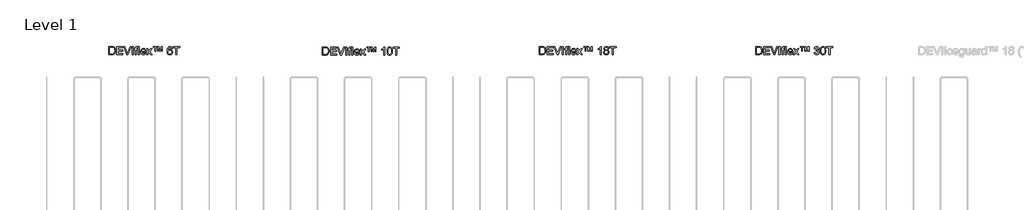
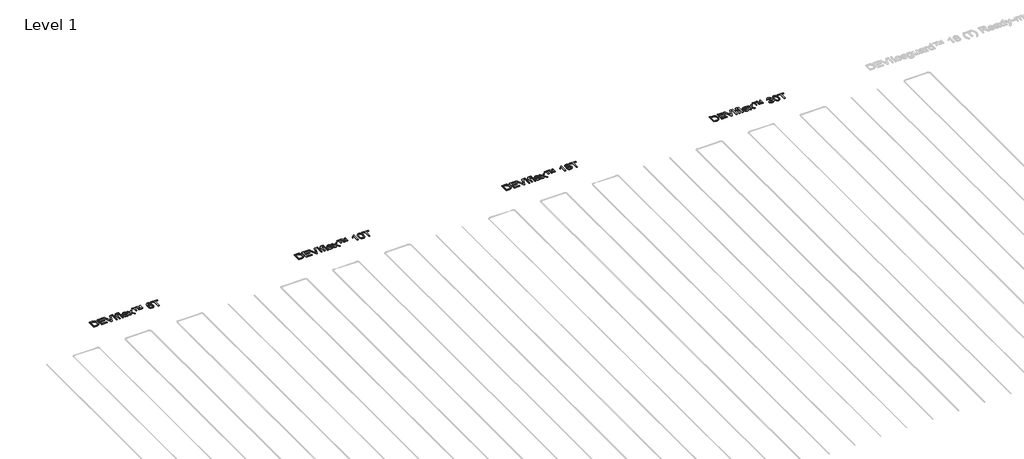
# One storey, part 23 of 26: 4 proxies.
"""IFC4 building model written with IfcOpenShell, lengths in millimetres."""

from ifc_helpers import new_model, si_unit, origin, origin_with_axes, place, context, project, spatial, polyline, outline, extrude, element, save

model = new_model("IFC4")

# Units and contexts
model_context = context("Model", 3, world=origin())
ifc_project = project(units=[si_unit("LENGTHUNIT", "METRE", prefix="MILLI")], contexts=[model_context])

# Site, building, storey
site = spatial("IfcSite", under=ifc_project)
building = spatial("IfcBuilding", under=site)
storey = spatial("IfcBuildingStorey", under=building, Name="Level 1", Elevation=0.0)

# Proxies
placement = place(None, origin())
element("IfcBuildingElementProxy", 1, Name="150mm", ObjectType="150mm", at=placement, inside=storey, context=model_context, shape_type="SweptSolid", body=[
    extrude(outline(polyline([(-10440.7797516, 2479.2798), (-10440.7797516, 2629.9642653), (-10388.7980257, 2629.9642653), (-10361.9058518, 2627.7937615), (-10339.7593557, 2617.014819), (-10329.3390982, 2605.5369008), (-10321.917079, 2591.2630794), (-10317.4749039, 2574.4692663), (-10315.9941788, 2555.431373), (-10320.0040926, 2525.0259261), (-10330.3047885, 2503.0817651), (-10344.0635751, 2489.414949), (-10362.0713987, 2481.854974), (-10386.2964281, 2479.2798), (-10440.7797516, 2479.2798)]), holes=[polyline([(-10421.9441935, 2498.1153582), (-10388.6140847, 2498.1153582), (-10364.3706612, 2500.837685), (-10350.3911454, 2508.5264187), (-10338.9316212, 2527.2332181), (-10334.829737, 2555.7256786), (-10336.8392924, 2576.253494), (-10342.8679586, 2591.4102322), (-10351.7753014, 2601.8212926), (-10362.4208866, 2608.1120748), (-10389.1291195, 2611.1287071), (-10421.9441935, 2611.1287071), (-10421.9441935, 2498.1153582)])]), origin_with_axes(), (0.0, 0.0, 1.0), 10.0),
    extrude(outline(polyline([(-10290.0952864, 2479.2798), (-10290.0952864, 2629.9642653), (-10181.790827, 2629.9642653), (-10181.790827, 2611.1287071), (-10271.2597282, 2611.1287071), (-10271.2597282, 2566.3942565), (-10186.4997165, 2566.3942565), (-10186.4997165, 2547.5586983), (-10271.2597282, 2547.5586983), (-10271.2597282, 2498.1153582), (-10179.4363822, 2498.1153582), (-10179.4363822, 2479.2798), (-10290.0952864, 2479.2798)])), origin_with_axes(), (0.0, 0.0, 1.0), 10.0),
    extrude(outline(polyline([(-10106.6693236, 2479.2798), (-10166.6340888, 2629.9642653), (-10146.4741555, 2629.9642653), (-10106.3382298, 2521.4022885), (-10098.2080377, 2496.9381358), (-10090.1882102, 2521.4022885), (-10049.9419199, 2629.9642653), (-10029.7819866, 2629.9642653), (-10087.208366, 2479.2798), (-10106.6693236, 2479.2798)])), origin_with_axes(), (0.0, 0.0, 1.0), 10.0),
    extrude(outline(polyline([(-10009.9163589, 2479.2798), (-10009.9163589, 2629.9642653), (-9991.0808007, 2629.9642653), (-9991.0808007, 2479.2798), (-10009.9163589, 2479.2798)])), origin_with_axes(), (0.0, 0.0, 1.0), 10.0),
    extrude(outline(polyline([(-9951.0552396, 2479.2798), (-9951.0552396, 2571.103146), (-9967.536353, 2571.103146), (-9967.536353, 2589.9387042), (-9951.0552396, 2589.9387042), (-9951.0552396, 2601.0855286), (-9949.0686769, 2616.7940898), (-9939.4301686, 2628.0144907), (-9920.4474576, 2632.31871), (-9903.2673685, 2630.2585709), (-9906.0264834, 2612.6002351), (-9916.8790023, 2613.4831519), (-9928.7431966, 2610.3561549), (-9932.2196815, 2598.6942957), (-9932.2196815, 2589.9387042), (-9911.0296786, 2589.9387042), (-9911.0296786, 2571.103146), (-9932.2196815, 2571.103146), (-9932.2196815, 2479.2798), (-9951.0552396, 2479.2798)])), origin_with_axes(), (0.0, 0.0, 1.0), 10.0),
    extrude(outline(polyline([(-9894.5485652, 2479.2798), (-9894.5485652, 2629.9642653), (-9875.713007, 2629.9642653), (-9875.713007, 2479.2798), (-9894.5485652, 2479.2798)])), origin_with_axes(), (0.0, 0.0, 1.0), 10.0),
    extrude(outline(polyline([(-9769.9837216, 2512.2420268), (-9751.5160454, 2509.887582), (-9758.170111, 2495.9724456), (-9768.7881051, 2485.5705822), (-9783.1309044, 2479.086662), (-9800.9593856, 2476.9253553), (-9823.0598965, 2480.654759), (-9840.0652417, 2491.8429702), (-9850.9085635, 2509.7634219), (-9854.5230041, 2533.6895471), (-9850.8717753, 2558.4204143), (-9839.9180889, 2576.9156816), (-9823.1426699, 2588.4487821), (-9802.0262434, 2592.293149), (-9781.5674059, 2588.4579792), (-9765.2196498, 2576.9524698), (-9754.5004881, 2558.4939907), (-9750.9274343, 2533.7999117), (-9751.0377988, 2528.7231402), (-9835.6874459, 2528.7231402), (-9832.4270918, 2514.6240627), (-9824.8533212, 2504.2589875), (-9813.9226274, 2497.8854319), (-9800.5915036, 2495.7609134), (-9782.1238274, 2499.6972508), (-9769.9837216, 2512.2420268)]), holes=[polyline([(-9835.6874459, 2547.5586983), (-9769.7629924, 2547.5586983), (-9772.3105752, 2557.5099063), (-9777.3045733, 2564.6284229), (-9788.2858509, 2571.2502988), (-9802.0998198, 2573.4575908), (-9814.7963471, 2571.6963558), (-9825.2947796, 2566.4126506), (-9832.5926387, 2558.1766924), (-9835.6874459, 2547.5586983)])]), origin_with_axes(), (0.0, 0.0, 1.0), 10.0),
    extrude(outline(polyline([(-9743.8640999, 2479.2798), (-9703.6178097, 2534.9035577), (-9741.5096552, 2589.9387042), (-9718.8481243, 2589.9387042), (-9700.5643891, 2563.4512005), (-9692.0295268, 2550.9432127), (-9684.6350987, 2561.1703322), (-9663.8129778, 2589.9387042), (-9641.1514469, 2589.9387042), (-9680.9562788, 2534.9035577), (-9642.6229749, 2479.2798), (-9665.2845058, 2479.2798), (-9688.3507069, 2512.7202734), (-9692.5813498, 2518.8271145), (-9721.202569, 2479.2798), (-9743.8640999, 2479.2798)])), origin_with_axes(), (0.0, 0.0, 1.0), 10.0),
    extrude(outline(polyline([(-9539.027405, 2545.2042536), (-9539.027405, 2629.9642653), (-9518.1317077, 2629.9642653), (-9496.5738228, 2561.9060962), (-9475.2734553, 2629.9642653), (-9454.2673933, 2629.9642653), (-9454.2673933, 2545.2042536), (-9468.394062, 2545.2042536), (-9468.394062, 2614.8075271), (-9489.5840649, 2545.2042536), (-9503.7107335, 2545.2042536), (-9524.9007364, 2615.8375967), (-9524.9007364, 2545.2042536), (-9539.027405, 2545.2042536)])), origin_with_axes(), (0.0, 0.0, 1.0), 10.0),
    extrude(outline(polyline([(-9590.82519, 2545.2042536), (-9590.82519, 2615.8375967), (-9619.0785272, 2615.8375967), (-9619.0785272, 2629.9642653), (-9548.4451841, 2629.9642653), (-9548.4451841, 2615.8375967), (-9576.6985213, 2615.8375967), (-9576.6985213, 2545.2042536), (-9590.82519, 2545.2042536)])), origin_with_axes(), (0.0, 0.0, 1.0), 10.0),
    extrude(outline(polyline([(-9265.9118118, 2589.9387042), (-9284.74737, 2587.5842594), (-9291.8842807, 2603.2928206), (-9300.42834, 2609.1697355), (-9310.756627, 2611.1287071), (-9327.7527752, 2606.5669704), (-9340.6102509, 2589.4420635), (-9344.5143986, 2575.4119639), (-9345.962934, 2555.8728314), (-9329.3530619, 2570.9008109), (-9308.7700642, 2575.8120356), (-9291.3692459, 2572.4551124), (-9276.7643307, 2562.3843428), (-9266.8591079, 2546.9976783), (-9263.557367, 2527.6930706), (-9265.1116685, 2514.205597), (-9269.7745728, 2501.7022076), (-9277.1598038, 2491.0980091), (-9286.8810855, 2483.3081079), (-9298.4969595, 2478.5210434), (-9311.5659674, 2476.9253553), (-9332.9353128, 2481.1559982), (-9349.9544536, 2493.8479271), (-9361.0874825, 2516.2519406), (-9364.7984921, 2549.6188375), (-9360.6782138, 2587.133604), (-9348.3173787, 2612.7841761), (-9331.4407922, 2625.669243), (-9309.5794046, 2629.9642653), (-9293.052306, 2627.3063179), (-9279.8177512, 2619.3324756), (-9270.5471249, 2606.6681379), (-9265.9118118, 2589.9387042)]), holes=[polyline([(-9345.962934, 2527.9873762), (-9341.6035323, 2511.6718097), (-9330.0152495, 2499.8260095), (-9313.0374954, 2495.7609134), (-9300.6076825, 2497.8670378), (-9290.835817, 2504.1854111), (-9284.5036481, 2514.118225), (-9282.3929252, 2527.0676712), (-9284.476057, 2539.4974841), (-9290.7254524, 2548.975044), (-9300.6628648, 2554.9761191), (-9313.8100476, 2556.9764774), (-9326.2214664, 2554.9761191), (-9336.6003372, 2548.975044), (-9343.6222848, 2539.7274104), (-9345.962934, 2527.9873762)])]), origin_with_axes(), (0.0, 0.0, 1.0), 10.0),
    extrude(outline(polyline([(-9202.341803, 2479.2798), (-9202.341803, 2611.1287071), (-9251.7851432, 2611.1287071), (-9251.7851432, 2629.9642653), (-9134.0629047, 2629.9642653), (-9134.0629047, 2611.1287071), (-9183.5062449, 2611.1287071), (-9183.5062449, 2479.2798), (-9202.341803, 2479.2798)])), origin_with_axes(), (0.0, 0.0, 1.0), 10.0),
])
element("IfcBuildingElementProxy", 2, Name="150mm", ObjectType="150mm", at=placement, inside=storey, context=model_context, shape_type="SweptSolid", body=[
    extrude(outline(polyline([(-6498.4636485, 2472.3798), (-6498.4636485, 2623.0642653), (-6446.4819225, 2623.0642653), (-6419.5897487, 2620.8937615), (-6397.4432526, 2610.114819), (-6387.0229951, 2598.6369008), (-6379.6009758, 2584.3630794), (-6375.1588007, 2567.5692663), (-6373.6780757, 2548.531373), (-6377.6879894, 2518.1259261), (-6387.9886853, 2496.1817651), (-6401.7474719, 2482.514949), (-6419.7552956, 2474.954974), (-6443.980325, 2472.3798), (-6498.4636485, 2472.3798)]), holes=[polyline([(-6479.6280903, 2491.2153582), (-6446.2979815, 2491.2153582), (-6422.0545581, 2493.937685), (-6408.0750422, 2501.6264187), (-6396.6155181, 2520.3332181), (-6392.5136338, 2548.8256786), (-6394.5231892, 2569.353494), (-6400.5518554, 2584.5102322), (-6409.4591982, 2594.9212926), (-6420.1047835, 2601.2120748), (-6446.8130163, 2604.2287071), (-6479.6280903, 2604.2287071), (-6479.6280903, 2491.2153582)])]), origin_with_axes(), (0.0, 0.0, 1.0), 10.0),
    extrude(outline(polyline([(-6347.7791832, 2472.3798), (-6347.7791832, 2623.0642653), (-6239.4747238, 2623.0642653), (-6239.4747238, 2604.2287071), (-6328.9436251, 2604.2287071), (-6328.9436251, 2559.4942565), (-6244.1836134, 2559.4942565), (-6244.1836134, 2540.6586983), (-6328.9436251, 2540.6586983), (-6328.9436251, 2491.2153582), (-6237.1202791, 2491.2153582), (-6237.1202791, 2472.3798), (-6347.7791832, 2472.3798)])), origin_with_axes(), (0.0, 0.0, 1.0), 10.0),
    extrude(outline(polyline([(-6164.3532204, 2472.3798), (-6224.3179856, 2623.0642653), (-6204.1580523, 2623.0642653), (-6164.0221266, 2514.5022885), (-6155.8919345, 2490.0381358), (-6147.872107, 2514.5022885), (-6107.6258168, 2623.0642653), (-6087.4658834, 2623.0642653), (-6144.8922629, 2472.3798), (-6164.3532204, 2472.3798)])), origin_with_axes(), (0.0, 0.0, 1.0), 10.0),
    extrude(outline(polyline([(-6067.6002557, 2472.3798), (-6067.6002557, 2623.0642653), (-6048.7646975, 2623.0642653), (-6048.7646975, 2472.3798), (-6067.6002557, 2472.3798)])), origin_with_axes(), (0.0, 0.0, 1.0), 10.0),
    extrude(outline(polyline([(-6008.7391365, 2472.3798), (-6008.7391365, 2564.203146), (-6025.2202499, 2564.203146), (-6025.2202499, 2583.0387042), (-6008.7391365, 2583.0387042), (-6008.7391365, 2594.1855286), (-6006.7525737, 2609.8940898), (-5997.1140654, 2621.1144907), (-5978.1313545, 2625.41871), (-5960.9512653, 2623.3585709), (-5963.7103803, 2605.7002351), (-5974.5628991, 2606.5831519), (-5986.4270935, 2603.4561549), (-5989.9035783, 2591.7942957), (-5989.9035783, 2583.0387042), (-5968.7135754, 2583.0387042), (-5968.7135754, 2564.203146), (-5989.9035783, 2564.203146), (-5989.9035783, 2472.3798), (-6008.7391365, 2472.3798)])), origin_with_axes(), (0.0, 0.0, 1.0), 10.0),
    extrude(outline(polyline([(-5952.232462, 2472.3798), (-5952.232462, 2623.0642653), (-5933.3969039, 2623.0642653), (-5933.3969039, 2472.3798), (-5952.232462, 2472.3798)])), origin_with_axes(), (0.0, 0.0, 1.0), 10.0),
    extrude(outline(polyline([(-5827.6676184, 2505.3420268), (-5809.1999423, 2502.987582), (-5815.8540079, 2489.0724456), (-5826.472002, 2478.6705822), (-5840.8148012, 2472.186662), (-5858.6432824, 2470.0253553), (-5880.7437933, 2473.754759), (-5897.7491385, 2484.9429702), (-5908.5924603, 2502.8634219), (-5912.2069009, 2526.7895471), (-5908.5556721, 2551.5204143), (-5897.6019857, 2570.0156816), (-5880.8265667, 2581.5487821), (-5859.7101402, 2585.393149), (-5839.2513028, 2581.5579792), (-5822.9035466, 2570.0524698), (-5812.184385, 2551.5939907), (-5808.6113311, 2526.8999117), (-5808.7216957, 2521.8231402), (-5893.3713428, 2521.8231402), (-5890.1109886, 2507.7240627), (-5882.537218, 2497.3589875), (-5871.6065242, 2490.9854319), (-5858.2754004, 2488.8609134), (-5839.8077243, 2492.7972508), (-5827.6676184, 2505.3420268)]), holes=[polyline([(-5893.3713428, 2540.6586983), (-5827.4468892, 2540.6586983), (-5829.9944721, 2550.6099063), (-5834.9884701, 2557.7284229), (-5845.9697477, 2564.3502988), (-5859.7837166, 2566.5575908), (-5872.480244, 2564.7963558), (-5882.9786764, 2559.5126506), (-5890.2765355, 2551.2766924), (-5893.3713428, 2540.6586983)])]), origin_with_axes(), (0.0, 0.0, 1.0), 10.0),
    extrude(outline(polyline([(-5801.5479968, 2472.3798), (-5761.3017065, 2528.0035577), (-5799.193552, 2583.0387042), (-5776.5320211, 2583.0387042), (-5758.248286, 2556.5512005), (-5749.7134237, 2544.0432127), (-5742.3189956, 2554.2703322), (-5721.4968746, 2583.0387042), (-5698.8353437, 2583.0387042), (-5738.6401756, 2528.0035577), (-5700.3068717, 2472.3798), (-5722.9684026, 2472.3798), (-5746.0346037, 2505.8202734), (-5750.2652467, 2511.9271145), (-5778.8864659, 2472.3798), (-5801.5479968, 2472.3798)])), origin_with_axes(), (0.0, 0.0, 1.0), 10.0),
    extrude(outline(polyline([(-5596.7113019, 2538.3042536), (-5596.7113019, 2623.0642653), (-5575.8156045, 2623.0642653), (-5554.2577196, 2555.0060962), (-5532.9573521, 2623.0642653), (-5511.9512902, 2623.0642653), (-5511.9512902, 2538.3042536), (-5526.0779588, 2538.3042536), (-5526.0779588, 2607.9075271), (-5547.2679617, 2538.3042536), (-5561.3946303, 2538.3042536), (-5582.5846333, 2608.9375967), (-5582.5846333, 2538.3042536), (-5596.7113019, 2538.3042536)])), origin_with_axes(), (0.0, 0.0, 1.0), 10.0),
    extrude(outline(polyline([(-5648.5090868, 2538.3042536), (-5648.5090868, 2608.9375967), (-5676.762424, 2608.9375967), (-5676.762424, 2623.0642653), (-5606.1290809, 2623.0642653), (-5606.1290809, 2608.9375967), (-5634.3824182, 2608.9375967), (-5634.3824182, 2538.3042536), (-5648.5090868, 2538.3042536)])), origin_with_axes(), (0.0, 0.0, 1.0), 10.0),
    extrude(outline(polyline([(-5349.4946011, 2472.3798), (-5368.3301593, 2472.3798), (-5368.3301593, 2589.8077329), (-5386.172436, 2577.09741), (-5406.0012756, 2567.5876604), (-5406.0012756, 2585.393149), (-5378.3917318, 2603.0146965), (-5361.634707, 2623.0642653), (-5349.4946011, 2623.0642653), (-5349.4946011, 2472.3798)])), origin_with_axes(), (0.0, 0.0, 1.0), 10.0),
    extrude(outline(polyline([(-5304.7601505, 2546.5080221), (-5303.3759945, 2570.6272854), (-5299.2235265, 2589.8629152), (-5292.3441332, 2604.5092171), (-5282.7792013, 2614.8604968), (-5270.459753, 2621.0133231), (-5255.3168103, 2623.0642653), (-5233.317467, 2618.2082229), (-5218.1239406, 2604.210313), (-5209.2947728, 2581.9166641), (-5205.8734702, 2546.5080221), (-5207.2438306, 2522.5267145), (-5211.3549119, 2503.3370699), (-5218.1929185, 2488.6769724), (-5227.7440548, 2478.2843061), (-5240.0910943, 2472.090093), (-5255.3168103, 2470.0253553), (-5274.8881325, 2473.6122047), (-5289.7505651, 2484.3727531), (-5301.0077542, 2509.8577783), (-5304.7601505, 2546.5080221)]), holes=[polyline([(-5285.9245923, 2546.5448103), (-5283.7173004, 2516.9165141), (-5277.0954245, 2499.7686146), (-5267.236187, 2491.5878387), (-5255.3168103, 2488.8609134), (-5243.3974337, 2491.5970358), (-5233.5381962, 2499.8054028), (-5226.9163203, 2516.9624993), (-5224.7090284, 2546.5448103), (-5226.8427439, 2575.5063203), (-5233.2438906, 2592.7875771), (-5243.084734, 2601.3684246), (-5255.5375395, 2604.2287071), (-5267.3281575, 2601.7087154), (-5276.8011189, 2594.1487404), (-5283.643724, 2575.7914289), (-5285.9245923, 2546.5448103)])]), origin_with_axes(), (0.0, 0.0, 1.0), 10.0),
    extrude(outline(polyline([(-5144.6579062, 2472.3798), (-5144.6579062, 2604.2287071), (-5194.1012464, 2604.2287071), (-5194.1012464, 2623.0642653), (-5076.3790079, 2623.0642653), (-5076.3790079, 2604.2287071), (-5125.822348, 2604.2287071), (-5125.822348, 2472.3798), (-5144.6579062, 2472.3798)])), origin_with_axes(), (0.0, 0.0, 1.0), 10.0),
])
element("IfcBuildingElementProxy", 3, Name="150mm", ObjectType="150mm", at=placement, inside=storey, context=model_context, shape_type="SweptSolid", body=[
    extrude(outline(polyline([(-2498.4636485, 2479.2798), (-2498.4636485, 2629.9642653), (-2446.4819225, 2629.9642653), (-2419.5897487, 2627.7937615), (-2397.4432526, 2617.014819), (-2387.0229951, 2605.5369008), (-2379.6009758, 2591.2630794), (-2375.1588007, 2574.4692663), (-2373.6780757, 2555.431373), (-2377.6879894, 2525.0259261), (-2387.9886853, 2503.0817651), (-2401.7474719, 2489.414949), (-2419.7552956, 2481.854974), (-2443.980325, 2479.2798), (-2498.4636485, 2479.2798)]), holes=[polyline([(-2479.6280903, 2498.1153582), (-2446.2979815, 2498.1153582), (-2422.0545581, 2500.837685), (-2408.0750422, 2508.5264187), (-2396.6155181, 2527.2332181), (-2392.5136338, 2555.7256786), (-2394.5231892, 2576.253494), (-2400.5518554, 2591.4102322), (-2409.4591982, 2601.8212926), (-2420.1047835, 2608.1120748), (-2446.8130163, 2611.1287071), (-2479.6280903, 2611.1287071), (-2479.6280903, 2498.1153582)])]), origin_with_axes(), (0.0, 0.0, 1.0), 10.0),
    extrude(outline(polyline([(-2347.7791832, 2479.2798), (-2347.7791832, 2629.9642653), (-2239.4747238, 2629.9642653), (-2239.4747238, 2611.1287071), (-2328.9436251, 2611.1287071), (-2328.9436251, 2566.3942565), (-2244.1836134, 2566.3942565), (-2244.1836134, 2547.5586983), (-2328.9436251, 2547.5586983), (-2328.9436251, 2498.1153582), (-2237.1202791, 2498.1153582), (-2237.1202791, 2479.2798), (-2347.7791832, 2479.2798)])), origin_with_axes(), (0.0, 0.0, 1.0), 10.0),
    extrude(outline(polyline([(-2164.3532204, 2479.2798), (-2224.3179856, 2629.9642653), (-2204.1580523, 2629.9642653), (-2164.0221266, 2521.4022885), (-2155.8919345, 2496.9381358), (-2147.872107, 2521.4022885), (-2107.6258168, 2629.9642653), (-2087.4658834, 2629.9642653), (-2144.8922629, 2479.2798), (-2164.3532204, 2479.2798)])), origin_with_axes(), (0.0, 0.0, 1.0), 10.0),
    extrude(outline(polyline([(-2067.6002557, 2479.2798), (-2067.6002557, 2629.9642653), (-2048.7646975, 2629.9642653), (-2048.7646975, 2479.2798), (-2067.6002557, 2479.2798)])), origin_with_axes(), (0.0, 0.0, 1.0), 10.0),
    extrude(outline(polyline([(-2008.7391365, 2479.2798), (-2008.7391365, 2571.103146), (-2025.2202499, 2571.103146), (-2025.2202499, 2589.9387042), (-2008.7391365, 2589.9387042), (-2008.7391365, 2601.0855286), (-2006.7525737, 2616.7940898), (-1997.1140654, 2628.0144907), (-1978.1313545, 2632.31871), (-1960.9512653, 2630.2585709), (-1963.7103803, 2612.6002351), (-1974.5628991, 2613.4831519), (-1986.4270935, 2610.3561549), (-1989.9035783, 2598.6942957), (-1989.9035783, 2589.9387042), (-1968.7135754, 2589.9387042), (-1968.7135754, 2571.103146), (-1989.9035783, 2571.103146), (-1989.9035783, 2479.2798), (-2008.7391365, 2479.2798)])), origin_with_axes(), (0.0, 0.0, 1.0), 10.0),
    extrude(outline(polyline([(-1952.232462, 2479.2798), (-1952.232462, 2629.9642653), (-1933.3969039, 2629.9642653), (-1933.3969039, 2479.2798), (-1952.232462, 2479.2798)])), origin_with_axes(), (0.0, 0.0, 1.0), 10.0),
    extrude(outline(polyline([(-1827.6676184, 2512.2420268), (-1809.1999423, 2509.887582), (-1815.8540079, 2495.9724456), (-1826.472002, 2485.5705822), (-1840.8148012, 2479.086662), (-1858.6432824, 2476.9253553), (-1880.7437933, 2480.654759), (-1897.7491385, 2491.8429702), (-1908.5924603, 2509.7634219), (-1912.2069009, 2533.6895471), (-1908.5556721, 2558.4204143), (-1897.6019857, 2576.9156816), (-1880.8265667, 2588.4487821), (-1859.7101402, 2592.293149), (-1839.2513028, 2588.4579792), (-1822.9035466, 2576.9524698), (-1812.184385, 2558.4939907), (-1808.6113311, 2533.7999117), (-1808.7216957, 2528.7231402), (-1893.3713428, 2528.7231402), (-1890.1109886, 2514.6240627), (-1882.537218, 2504.2589875), (-1871.6065242, 2497.8854319), (-1858.2754004, 2495.7609134), (-1839.8077243, 2499.6972508), (-1827.6676184, 2512.2420268)]), holes=[polyline([(-1893.3713428, 2547.5586983), (-1827.4468892, 2547.5586983), (-1829.9944721, 2557.5099063), (-1834.9884701, 2564.6284229), (-1845.9697477, 2571.2502988), (-1859.7837166, 2573.4575908), (-1872.480244, 2571.6963558), (-1882.9786764, 2566.4126506), (-1890.2765355, 2558.1766924), (-1893.3713428, 2547.5586983)])]), origin_with_axes(), (0.0, 0.0, 1.0), 10.0),
    extrude(outline(polyline([(-1801.5479968, 2479.2798), (-1761.3017065, 2534.9035577), (-1799.193552, 2589.9387042), (-1776.5320211, 2589.9387042), (-1758.248286, 2563.4512005), (-1749.7134237, 2550.9432127), (-1742.3189956, 2561.1703322), (-1721.4968746, 2589.9387042), (-1698.8353437, 2589.9387042), (-1738.6401756, 2534.9035577), (-1700.3068717, 2479.2798), (-1722.9684026, 2479.2798), (-1746.0346037, 2512.7202734), (-1750.2652467, 2518.8271145), (-1778.8864659, 2479.2798), (-1801.5479968, 2479.2798)])), origin_with_axes(), (0.0, 0.0, 1.0), 10.0),
    extrude(outline(polyline([(-1596.7113019, 2545.2042536), (-1596.7113019, 2629.9642653), (-1575.8156045, 2629.9642653), (-1554.2577196, 2561.9060962), (-1532.9573521, 2629.9642653), (-1511.9512902, 2629.9642653), (-1511.9512902, 2545.2042536), (-1526.0779588, 2545.2042536), (-1526.0779588, 2614.8075271), (-1547.2679617, 2545.2042536), (-1561.3946303, 2545.2042536), (-1582.5846333, 2615.8375967), (-1582.5846333, 2545.2042536), (-1596.7113019, 2545.2042536)])), origin_with_axes(), (0.0, 0.0, 1.0), 10.0),
    extrude(outline(polyline([(-1648.5090868, 2545.2042536), (-1648.5090868, 2615.8375967), (-1676.762424, 2615.8375967), (-1676.762424, 2629.9642653), (-1606.1290809, 2629.9642653), (-1606.1290809, 2615.8375967), (-1634.3824182, 2615.8375967), (-1634.3824182, 2545.2042536), (-1648.5090868, 2545.2042536)])), origin_with_axes(), (0.0, 0.0, 1.0), 10.0),
    extrude(outline(polyline([(-1349.4946011, 2479.2798), (-1368.3301593, 2479.2798), (-1368.3301593, 2596.7077329), (-1386.172436, 2583.99741), (-1406.0012756, 2574.4876604), (-1406.0012756, 2592.293149), (-1378.3917318, 2609.9146965), (-1361.634707, 2629.9642653), (-1349.4946011, 2629.9642653), (-1349.4946011, 2479.2798)])), origin_with_axes(), (0.0, 0.0, 1.0), 10.0),
    extrude(outline(polyline([(-1277.3161537, 2562.2739782), (-1294.4778487, 2573.9726256), (-1300.051261, 2592.1827844), (-1297.0162345, 2606.9072612), (-1287.9111551, 2619.0749582), (-1273.7568954, 2627.2419385), (-1255.5743277, 2629.9642653), (-1237.2813955, 2627.1775592), (-1222.9431948, 2618.8174408), (-1213.6725685, 2606.4566058), (-1210.5823597, 2591.6677496), (-1216.0821956, 2573.9174433), (-1232.765644, 2562.2739782), (-1221.1727627, 2556.3004943), (-1212.7344694, 2547.503516), (-1207.58872, 2536.3061078), (-1205.8734702, 2523.1313339), (-1209.2763787, 2505.1235102), (-1219.485104, 2490.2426835), (-1235.2488475, 2480.2546873), (-1255.3168103, 2476.9253553), (-1275.3847732, 2480.2684829), (-1291.1485167, 2490.2978658), (-1301.357242, 2505.3212468), (-1304.7601505, 2523.6463687), (-1302.9759228, 2537.3315789), (-1297.6232398, 2548.5887679), (-1288.9780129, 2557.0316597), (-1277.3161537, 2562.2739782)]), holes=[polyline([(-1285.9245923, 2524.3085563), (-1282.7792013, 2510.1267053), (-1271.6507709, 2499.5133098), (-1255.1696576, 2495.7609134), (-1242.34897, 2497.7336806), (-1232.7288558, 2503.6519822), (-1226.7139852, 2512.6145073), (-1224.7090284, 2523.7199451), (-1226.7783646, 2535.0139223), (-1232.9863732, 2544.174184), (-1242.8272166, 2550.2442369), (-1255.7950569, 2552.2675879), (-1268.436402, 2550.2718281), (-1277.9599472, 2544.2845486), (-1283.933431, 2535.2990309), (-1285.9245923, 2524.3085563)]), polyline([(-1281.2157028, 2591.6309614), (-1279.5464383, 2583.4087988), (-1274.5386446, 2576.8421052), (-1266.3394746, 2572.5378858), (-1255.0960812, 2571.103146), (-1244.1148036, 2572.5286888), (-1236.0397938, 2576.805317), (-1231.0733869, 2583.1512814), (-1229.4179179, 2590.7848328), (-1231.1285692, 2598.7080913), (-1236.260523, 2605.2609893), (-1244.4458974, 2609.6617777), (-1255.3168103, 2611.1287071), (-1266.2567012, 2609.6939673), (-1274.42828, 2605.389748), (-1279.5188471, 2599.0805718), (-1281.2157028, 2591.6309614)])]), origin_with_axes(), (0.0, 0.0, 1.0), 10.0),
    extrude(outline(polyline([(-1144.6579062, 2479.2798), (-1144.6579062, 2611.1287071), (-1194.1012464, 2611.1287071), (-1194.1012464, 2629.9642653), (-1076.3790079, 2629.9642653), (-1076.3790079, 2611.1287071), (-1125.822348, 2611.1287071), (-1125.822348, 2479.2798), (-1144.6579062, 2479.2798)])), origin_with_axes(), (0.0, 0.0, 1.0), 10.0),
])
element("IfcBuildingElementProxy", 4, Name="150mm", ObjectType="150mm", at=placement, inside=storey, context=model_context, shape_type="SweptSolid", body=[
    extrude(outline(polyline([(1501.5363515, 2479.2798), (1501.5363515, 2629.9642653), (1553.5180775, 2629.9642653), (1580.4102513, 2627.7937615), (1602.5567474, 2617.014819), (1612.9770049, 2605.5369008), (1620.3990242, 2591.2630794), (1624.8411993, 2574.4692663), (1626.3219243, 2555.431373), (1622.3120106, 2525.0259261), (1612.0113147, 2503.0817651), (1598.2525281, 2489.414949), (1580.2447044, 2481.854974), (1556.019675, 2479.2798), (1501.5363515, 2479.2798)]), holes=[polyline([(1520.3719097, 2498.1153582), (1553.7020185, 2498.1153582), (1577.9454419, 2500.837685), (1591.9249578, 2508.5264187), (1603.3844819, 2527.2332181), (1607.4863662, 2555.7256786), (1605.4768108, 2576.253494), (1599.4481446, 2591.4102322), (1590.5408018, 2601.8212926), (1579.8952165, 2608.1120748), (1553.1869837, 2611.1287071), (1520.3719097, 2611.1287071), (1520.3719097, 2498.1153582)])]), origin_with_axes(), (0.0, 0.0, 1.0), 10.0),
    extrude(outline(polyline([(1652.2208168, 2479.2798), (1652.2208168, 2629.9642653), (1760.5252762, 2629.9642653), (1760.5252762, 2611.1287071), (1671.0563749, 2611.1287071), (1671.0563749, 2566.3942565), (1755.8163866, 2566.3942565), (1755.8163866, 2547.5586983), (1671.0563749, 2547.5586983), (1671.0563749, 2498.1153582), (1762.8797209, 2498.1153582), (1762.8797209, 2479.2798), (1652.2208168, 2479.2798)])), origin_with_axes(), (0.0, 0.0, 1.0), 10.0),
    extrude(outline(polyline([(1835.6467796, 2479.2798), (1775.6820144, 2629.9642653), (1795.8419477, 2629.9642653), (1835.9778734, 2521.4022885), (1844.1080655, 2496.9381358), (1852.127893, 2521.4022885), (1892.3741832, 2629.9642653), (1912.5341166, 2629.9642653), (1855.1077371, 2479.2798), (1835.6467796, 2479.2798)])), origin_with_axes(), (0.0, 0.0, 1.0), 10.0),
    extrude(outline(polyline([(1932.3997443, 2479.2798), (1932.3997443, 2629.9642653), (1951.2353025, 2629.9642653), (1951.2353025, 2479.2798), (1932.3997443, 2479.2798)])), origin_with_axes(), (0.0, 0.0, 1.0), 10.0),
    extrude(outline(polyline([(1991.2608635, 2479.2798), (1991.2608635, 2571.103146), (1974.7797501, 2571.103146), (1974.7797501, 2589.9387042), (1991.2608635, 2589.9387042), (1991.2608635, 2601.0855286), (1993.2474263, 2616.7940898), (2002.8859346, 2628.0144907), (2021.8686455, 2632.31871), (2039.0487347, 2630.2585709), (2036.2896197, 2612.6002351), (2025.4371009, 2613.4831519), (2013.5729065, 2610.3561549), (2010.0964217, 2598.6942957), (2010.0964217, 2589.9387042), (2031.2864246, 2589.9387042), (2031.2864246, 2571.103146), (2010.0964217, 2571.103146), (2010.0964217, 2479.2798), (1991.2608635, 2479.2798)])), origin_with_axes(), (0.0, 0.0, 1.0), 10.0),
    extrude(outline(polyline([(2047.767538, 2479.2798), (2047.767538, 2629.9642653), (2066.6030961, 2629.9642653), (2066.6030961, 2479.2798), (2047.767538, 2479.2798)])), origin_with_axes(), (0.0, 0.0, 1.0), 10.0),
    extrude(outline(polyline([(2172.3323816, 2512.2420268), (2190.8000577, 2509.887582), (2184.1459921, 2495.9724456), (2173.527998, 2485.5705822), (2159.1851988, 2479.086662), (2141.3567176, 2476.9253553), (2119.2562067, 2480.654759), (2102.2508615, 2491.8429702), (2091.4075397, 2509.7634219), (2087.7930991, 2533.6895471), (2091.4443279, 2558.4204143), (2102.3980143, 2576.9156816), (2119.1734333, 2588.4487821), (2140.2898598, 2592.293149), (2160.7486972, 2588.4579792), (2177.0964534, 2576.9524698), (2187.815615, 2558.4939907), (2191.3886689, 2533.7999117), (2191.2783043, 2528.7231402), (2106.6286572, 2528.7231402), (2109.8890114, 2514.6240627), (2117.462782, 2504.2589875), (2128.3934758, 2497.8854319), (2141.7245996, 2495.7609134), (2160.1922757, 2499.6972508), (2172.3323816, 2512.2420268)]), holes=[polyline([(2106.6286572, 2547.5586983), (2172.5531108, 2547.5586983), (2170.0055279, 2557.5099063), (2165.0115299, 2564.6284229), (2154.0302523, 2571.2502988), (2140.2162834, 2573.4575908), (2127.519756, 2571.6963558), (2117.0213236, 2566.4126506), (2109.7234645, 2558.1766924), (2106.6286572, 2547.5586983)])]), origin_with_axes(), (0.0, 0.0, 1.0), 10.0),
    extrude(outline(polyline([(2198.4520032, 2479.2798), (2238.6982935, 2534.9035577), (2200.806448, 2589.9387042), (2223.4679789, 2589.9387042), (2241.751714, 2563.4512005), (2250.2865763, 2550.9432127), (2257.6810044, 2561.1703322), (2278.5031254, 2589.9387042), (2301.1646563, 2589.9387042), (2261.3598244, 2534.9035577), (2299.6931283, 2479.2798), (2277.0315974, 2479.2798), (2253.9653963, 2512.7202734), (2249.7347533, 2518.8271145), (2221.1135341, 2479.2798), (2198.4520032, 2479.2798)])), origin_with_axes(), (0.0, 0.0, 1.0), 10.0),
    extrude(outline(polyline([(2403.2886981, 2545.2042536), (2403.2886981, 2629.9642653), (2424.1843955, 2629.9642653), (2445.7422804, 2561.9060962), (2467.0426479, 2629.9642653), (2488.0487098, 2629.9642653), (2488.0487098, 2545.2042536), (2473.9220412, 2545.2042536), (2473.9220412, 2614.8075271), (2452.7320383, 2545.2042536), (2438.6053697, 2545.2042536), (2417.4153667, 2615.8375967), (2417.4153667, 2545.2042536), (2403.2886981, 2545.2042536)])), origin_with_axes(), (0.0, 0.0, 1.0), 10.0),
    extrude(outline(polyline([(2351.4909132, 2545.2042536), (2351.4909132, 2615.8375967), (2323.237576, 2615.8375967), (2323.237576, 2629.9642653), (2393.8709191, 2629.9642653), (2393.8709191, 2615.8375967), (2365.6175818, 2615.8375967), (2365.6175818, 2545.2042536), (2351.4909132, 2545.2042536)])), origin_with_axes(), (0.0, 0.0, 1.0), 10.0),
    extrude(outline(polyline([(2579.8720558, 2519.3053611), (2598.707614, 2521.6598059), (2602.9244613, 2509.8232027), (2609.1002803, 2501.8309663), (2617.5385736, 2497.2784267), (2628.5428438, 2495.7609134), (2641.4555018, 2497.8486437), (2651.4251039, 2504.1118347), (2657.7986594, 2513.4560374), (2659.923178, 2524.7868028), (2657.8170535, 2535.5427527), (2651.4986803, 2544.2661545), (2641.9337484, 2550.0465003), (2630.0879482, 2551.9732823), (2616.8809845, 2549.9131431), (2618.9779119, 2568.7487013), (2621.9945443, 2568.5279721), (2643.3684882, 2573.9358374), (2650.4870048, 2580.7968366), (2652.8598437, 2590.5641036), (2651.1399953, 2598.6988942), (2645.9804503, 2605.2977775), (2638.1077756, 2609.6709747), (2628.2485382, 2611.1287071), (2618.3709066, 2609.6571791), (2610.2958968, 2605.2425952), (2604.4005878, 2597.8849553), (2601.0620587, 2587.5842594), (2582.2265006, 2589.9387042), (2587.7723217, 2606.8520789), (2597.6407562, 2619.4796284), (2611.1420254, 2627.3431061), (2627.5863506, 2629.9642653), (2650.3030638, 2624.7955232), (2666.195566, 2610.6688546), (2671.6954018, 2591.6677496), (2666.4714775, 2574.3037194), (2651.0204337, 2561.8325198), (2662.8110516, 2557.0684479), (2671.548249, 2548.9566499), (2676.9561143, 2537.9385842), (2678.7587361, 2524.455709), (2675.1534926, 2506.0983975), (2664.3377619, 2490.7577183), (2648.0129984, 2480.383446), (2627.8806562, 2476.9253553), (2609.6704974, 2479.8776083), (2594.844853, 2488.7343673), (2584.5349601, 2502.2816218), (2579.8720558, 2519.3053611)])), origin_with_axes(), (0.0, 0.0, 1.0), 10.0),
    extrude(outline(polyline([(2695.2398495, 2553.4080221), (2696.6240055, 2577.5272854), (2700.7764735, 2596.7629152), (2707.6558668, 2611.4092171), (2717.2207987, 2621.7604968), (2729.540247, 2627.9133231), (2744.6831897, 2629.9642653), (2766.682533, 2625.1082229), (2781.8760594, 2611.110313), (2790.7052272, 2588.8166641), (2794.1265298, 2553.4080221), (2792.7561694, 2529.4267145), (2788.6450881, 2510.2370699), (2781.8070815, 2495.5769724), (2772.2559452, 2485.1843061), (2759.9089057, 2478.990093), (2744.6831897, 2476.9253553), (2725.1118675, 2480.5122047), (2710.2494349, 2491.2727531), (2698.9922458, 2516.7577783), (2695.2398495, 2553.4080221)]), holes=[polyline([(2714.0754077, 2553.4448103), (2716.2826996, 2523.8165141), (2722.9045755, 2506.6686146), (2732.763813, 2498.4878387), (2744.6831897, 2495.7609134), (2756.6025663, 2498.4970358), (2766.4618038, 2506.7054028), (2773.0836797, 2523.8624993), (2775.2909716, 2553.4448103), (2773.1572561, 2582.4063203), (2766.7561094, 2599.6875771), (2756.915266, 2608.2684246), (2744.4624605, 2611.1287071), (2732.6718425, 2608.6087154), (2723.1988811, 2601.0487404), (2716.356276, 2582.6914289), (2714.0754077, 2553.4448103)])]), origin_with_axes(), (0.0, 0.0, 1.0), 10.0),
    extrude(outline(polyline([(2855.3420938, 2479.2798), (2855.3420938, 2611.1287071), (2805.8987536, 2611.1287071), (2805.8987536, 2629.9642653), (2923.6209921, 2629.9642653), (2923.6209921, 2611.1287071), (2874.177652, 2611.1287071), (2874.177652, 2479.2798), (2855.3420938, 2479.2798)])), origin_with_axes(), (0.0, 0.0, 1.0), 10.0),
])

save(model, "model.ifc")
